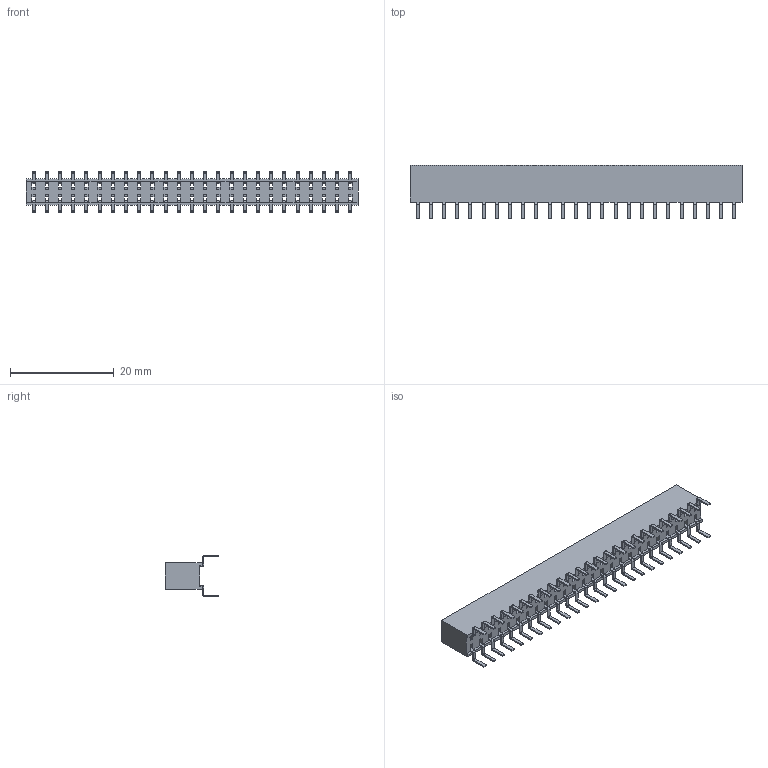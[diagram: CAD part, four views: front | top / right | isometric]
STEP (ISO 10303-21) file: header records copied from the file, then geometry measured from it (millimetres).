
FILE_DESCRIPTION (( 'STEP AP203' ), '1' );
FILE_NAME ('PM254-2-25-WC-7.1-XX(L10.3) (2.54双排 排母 蜈蚣脚 塑高7.1-HCTL).STEP', '2026-04-23T03:11:01', ( '' ), ( '' ), 'SwSTEP 2.0', 'SolidWorks 2025', '' );
FILE_SCHEMA (( 'CONFIG_CONTROL_DESIGN' ));
Length unit declared in the file: millimetre
Products named in the file (1): PM254-2-25-WC-7.1-XX(L10.3) (2.54双排 排母 蜈蚣脚 塑高7.1-HCTL)
Bounding box: 63.9 x 10.3 x 7.87 mm (x, y, z)
Volume: 2043.7 mm3; surface area: 3033.4 mm2
Topology: 1 solids, 1 shells, 1210 faces, 3574 edges, 2316 vertices
Faces by surface type: plane 1010, cylinder 200
Entity records: 39915 total; most frequent: ORIENTED_EDGE 7148, CARTESIAN_POINT 7101, DIRECTION 6396, EDGE_CURVE 3574, LINE 3174, VECTOR 3174, VERTEX_POINT 2316, AXIS2_PLACEMENT_3D 1611
